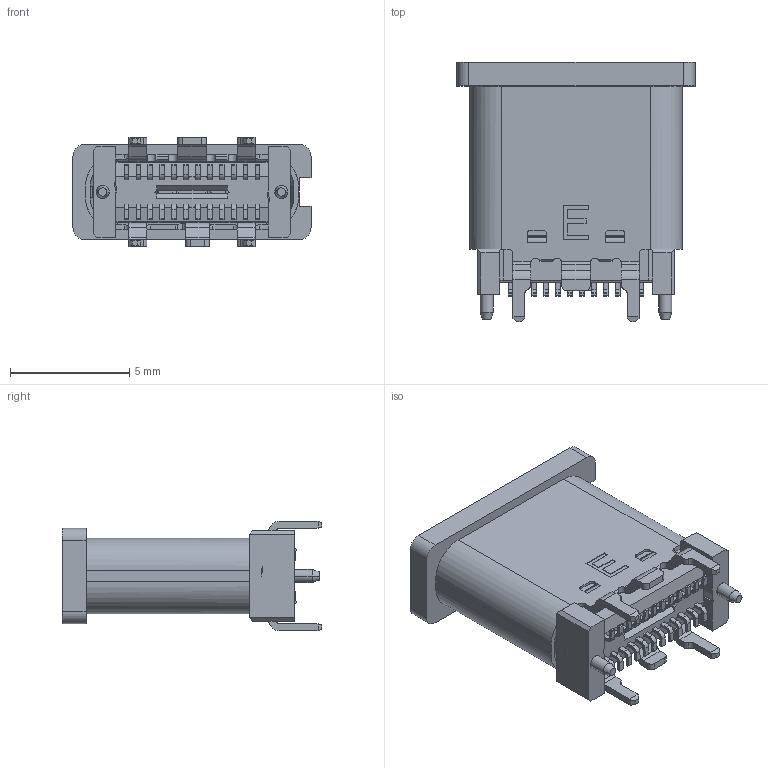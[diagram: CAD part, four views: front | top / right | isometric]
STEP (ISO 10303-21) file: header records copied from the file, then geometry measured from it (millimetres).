
FILE_DESCRIPTION((''),'2;1');
FILE_NAME('TYPEC_H10_40_ASM_47_ASM','2020-05-18T16:42:12',('HFH'),(''),'CREO PARAMETRIC BY PTC INC, 2017110','CREO PARAMETRIC BY PTC INC, 2017110','');
FILE_SCHEMA(('AUTOMOTIVE_DESIGN { 1 0 10303 214 1 1 1 1 }'));
Length unit declared in the file: millimetre
Products named in the file (3): MID_46; COVER__21; TYPEC_H10_40_ASM_47_ASM
Assembly tree (2 placements, depth 2):
  TYPEC_H10_40_ASM_47_ASM
    MID_46
    COVER__21
Bounding box: 10 x 10.9 x 4.6 mm (x, y, z)
Volume: 209.9 mm3; surface area: 850.9 mm2
Topology: 2 solids, 105 shells, 2231 faces, 5946 edges, 3924 vertices
Faces by surface type: plane 1757, cylinder 358, cone 70, bspline 22, extrusion 16, torus 8
Entity records: 72261 total; most frequent: CARTESIAN_POINT 14121, ORIENTED_EDGE 11652, DIRECTION 10927, EDGE_CURVE 5946, VECTOR 4896, LINE 4880, VERTEX_POINT 3924, AXIS2_PLACEMENT_3D 3011
